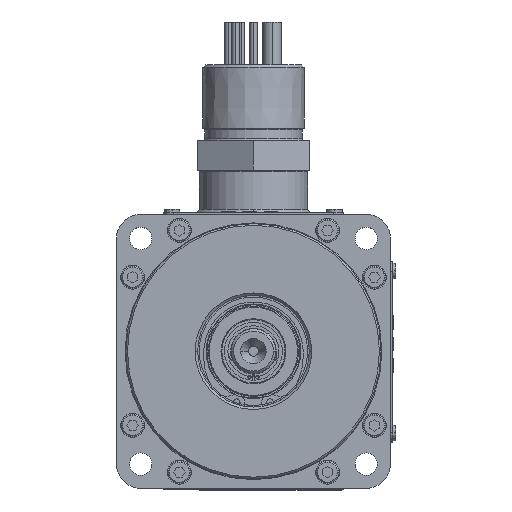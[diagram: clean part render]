
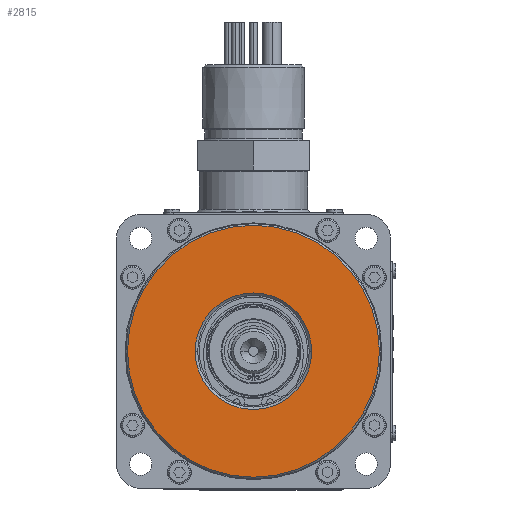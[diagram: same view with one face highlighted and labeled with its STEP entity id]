
A CAD part, top view. The second image highlights one B-rep face of the part: STEP entity #2815.
In plain terms, the highlighted planar face has unit normal (0, 0, 1).
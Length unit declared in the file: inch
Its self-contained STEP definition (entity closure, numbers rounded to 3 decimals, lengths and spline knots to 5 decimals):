
#2814 = EDGE_CURVE ( 'NONE', #2911, #2914, #25315, .T. ) ;
#2815 = ADVANCED_FACE ( 'NONE', ( #25310, #25309 ), #25308, .T. ) ;
#2831 = VERTEX_POINT ( 'NONE', #25291 ) ;
#2863 = EDGE_CURVE ( 'NONE', #2992, #2831, #25324, .T. ) ;
#2866 = ORIENTED_EDGE ( 'NONE', *, *, #2991, .T. ) ;
#2868 = EDGE_LOOP ( 'NONE', ( #2885, #2886 ) ) ;
#2885 = ORIENTED_EDGE ( 'NONE', *, *, #2913, .T. ) ;
#2886 = ORIENTED_EDGE ( 'NONE', *, *, #2814, .T. ) ;
#2911 = VERTEX_POINT ( 'NONE', #25464 ) ;
#2913 = EDGE_CURVE ( 'NONE', #2914, #2911, #25463, .T. ) ;
#2914 = VERTEX_POINT ( 'NONE', #25458 ) ;
#2991 = EDGE_CURVE ( 'NONE', #2831, #2992, #25515, .T. ) ;
#2992 = VERTEX_POINT ( 'NONE', #25510 ) ;
#2997 = EDGE_LOOP ( 'NONE', ( #2998, #2866 ) ) ;
#2998 = ORIENTED_EDGE ( 'NONE', *, *, #2863, .T. ) ;
#25291 = CARTESIAN_POINT ( 'NONE',  ( 1.5548, 0., -1.063 ) ) ;
#25303 = DIRECTION ( 'NONE',  ( 1., 0., 0. ) ) ;
#25304 = DIRECTION ( 'NONE',  ( 0., 0., 1. ) ) ;
#25305 = CARTESIAN_POINT ( 'NONE',  ( 0., 1.5748, -1.063 ) ) ;
#25307 = AXIS2_PLACEMENT_3D ( 'NONE', #25305, #25304, #25303 ) ;
#25308 = PLANE ( 'NONE',  #25307 ) ;
#25309 = FACE_BOUND ( 'NONE', #2868, .T. ) ;
#25310 = FACE_OUTER_BOUND ( 'NONE', #2997, .T. ) ;
#25311 = DIRECTION ( 'NONE',  ( 1., 0., 0. ) ) ;
#25312 = DIRECTION ( 'NONE',  ( 0., 0., -1. ) ) ;
#25313 = CARTESIAN_POINT ( 'NONE',  ( 0., 0., -1.063 ) ) ;
#25314 = AXIS2_PLACEMENT_3D ( 'NONE', #25313, #25312, #25311 ) ;
#25315 = CIRCLE ( 'NONE', #25314, 0.71885 ) ;
#25320 = DIRECTION ( 'NONE',  ( 1., 0., 0. ) ) ;
#25321 = DIRECTION ( 'NONE',  ( 0., 0., 1. ) ) ;
#25322 = CARTESIAN_POINT ( 'NONE',  ( 0., 0., -1.063 ) ) ;
#25323 = AXIS2_PLACEMENT_3D ( 'NONE', #25322, #25321, #25320 ) ;
#25324 = CIRCLE ( 'NONE', #25323, 1.5548 ) ;
#25458 = CARTESIAN_POINT ( 'NONE',  ( 0.71885, 0., -1.063 ) ) ;
#25459 = DIRECTION ( 'NONE',  ( 1., 0., 0. ) ) ;
#25460 = DIRECTION ( 'NONE',  ( 0., 0., -1. ) ) ;
#25461 = CARTESIAN_POINT ( 'NONE',  ( 0., 0., -1.063 ) ) ;
#25462 = AXIS2_PLACEMENT_3D ( 'NONE', #25461, #25460, #25459 ) ;
#25463 = CIRCLE ( 'NONE', #25462, 0.71885 ) ;
#25464 = CARTESIAN_POINT ( 'NONE',  ( -0.71885, 0., -1.063 ) ) ;
#25510 = CARTESIAN_POINT ( 'NONE',  ( -1.5548, 0., -1.063 ) ) ;
#25511 = DIRECTION ( 'NONE',  ( 1., 0., 0. ) ) ;
#25512 = DIRECTION ( 'NONE',  ( 0., 0., 1. ) ) ;
#25513 = CARTESIAN_POINT ( 'NONE',  ( 0., 0., -1.063 ) ) ;
#25514 = AXIS2_PLACEMENT_3D ( 'NONE', #25513, #25512, #25511 ) ;
#25515 = CIRCLE ( 'NONE', #25514, 1.5548 ) ;
